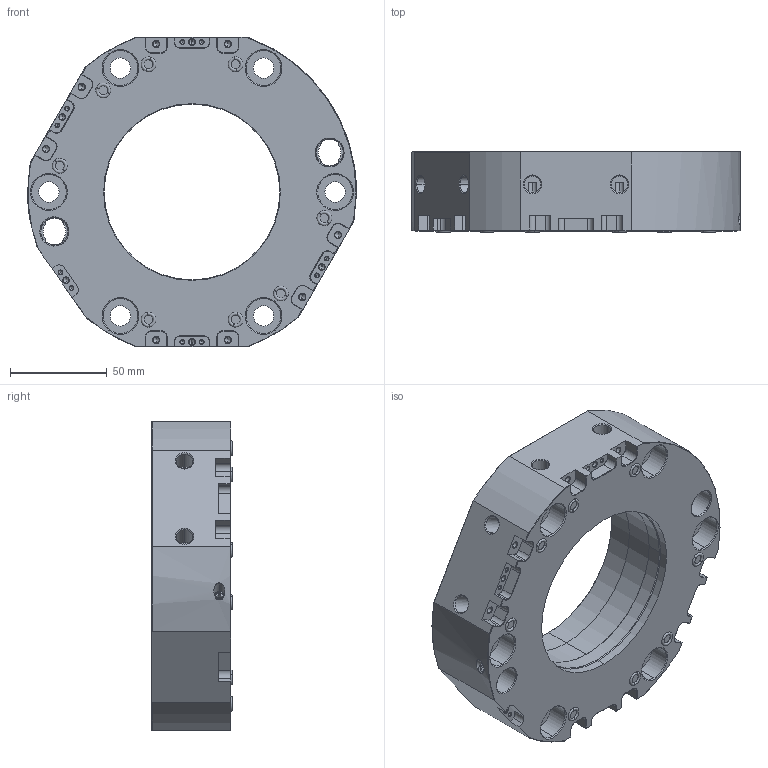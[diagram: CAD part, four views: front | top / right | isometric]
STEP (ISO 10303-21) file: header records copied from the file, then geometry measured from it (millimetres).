
FILE_DESCRIPTION (( 'STEP AP203' ), '1' );
FILE_NAME ('TSKP-T210 萵攫掛极.STEP', '2021-08-12T09:32:06', ( '' ), ( '' ), 'SwSTEP 2.0', 'SolidWorks 2018', '' );
FILE_SCHEMA (( 'CONFIG_CONTROL_DESIGN' ));
Length unit declared in the file: millimetre
Products named in the file (1): TSKP-T210 萵攫掛极
Bounding box: 170 x 41.75 x 160 mm (x, y, z)
Volume: 556189.6 mm3; surface area: 90397.1 mm2
Topology: 1 solids, 9 shells, 831 faces, 2014 edges, 1212 vertices
Faces by surface type: plane 328, cylinder 250, cone 215, torus 38
Entity records: 24180 total; most frequent: CARTESIAN_POINT 4453, DIRECTION 4384, ORIENTED_EDGE 3896, EDGE_CURVE 1948, AXIS2_PLACEMENT_3D 1673, VERTEX_POINT 1212, LINE 1038, VECTOR 1038
